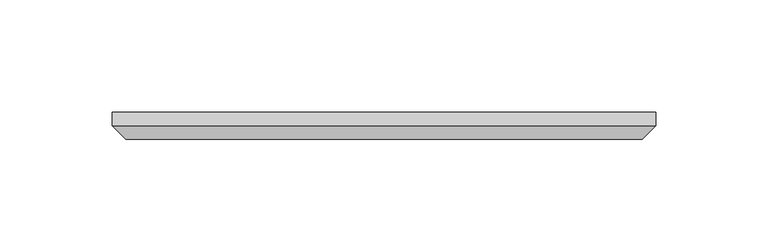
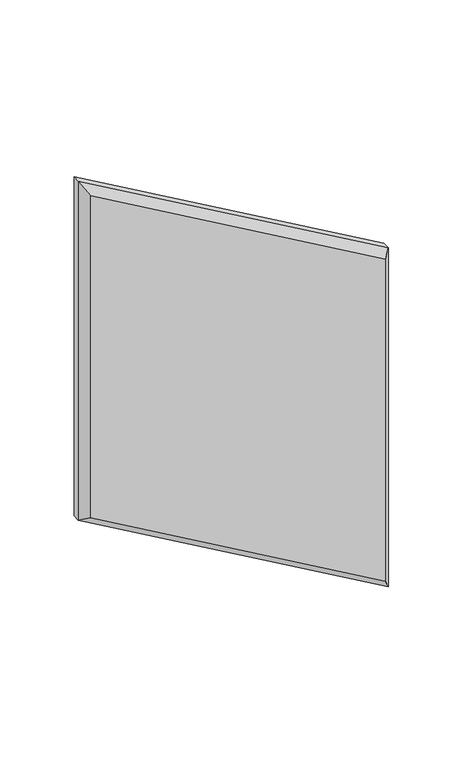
"""IFC4 building model written with IfcOpenShell, lengths in millimetres: proxy geometry, Wall_Cissu 2.3dm."""

from ifc_helpers import new_model, si_unit, origin, place, context, project, spatial, faceted_brep, source, transform, mapped, element, save


def generic_models_d6408ce0(model_context):
    return source(origin(), model_context, "Body", "Brep", [
        faceted_brep([(1360.4764126, -95.7520401, 1463.7211857), (1360.4764126, -95.7520401, 1184.3211857), (1118.5089148, -95.7520401, 1324.0211857), (1118.5089148, -95.7520401, 1603.4211857), (1360.4764126, -101.7520401, 1463.7211857), (1360.4764126, -101.7520401, 1184.3211857), (1118.5089148, -101.7520401, 1324.0211857), (1118.5089148, -101.7520401, 1603.4211857), (1124.5089148, -107.7520401, 1327.4852874), (1354.4764126, -107.7520401, 1194.7134906), (1354.4764126, -107.7520401, 1460.2570841), (1124.5089148, -107.7520401, 1593.0288809)], [[[0, 1, 2, 3]], [[4, 5, 1, 0]], [[5, 6, 2, 1]], [[6, 7, 3, 2]], [[7, 4, 0, 3]], [[8, 9, 10, 11]], [[4, 10, 9, 5]], [[5, 9, 8, 6]], [[6, 8, 11, 7]], [[7, 11, 10, 4]]]),
    ])


if __name__ == "__main__":
    model = new_model("IFC4")
    model_context = context("Model", 3, world=origin())
    ifc_project = project(units=[si_unit("LENGTHUNIT", "METRE", prefix="MILLI")], contexts=[model_context])
    site = spatial("IfcSite", under=ifc_project)
    building = spatial("IfcBuilding", under=site)
    placement = place(None, origin())
    generic_models_shape = generic_models_d6408ce0(model_context)
    element("IfcBuildingElementProxy", 1, Name="Wall_Cissu 2.3dm", ObjectType="Wall_Cissu 2.3dm", at=placement, inside=building, context=model_context, shape_type="MappedRepresentation", body=[
        mapped(generic_models_shape, transform((0.0, 0.0, 0.0), x_axis=(1.0, 0.0, 0.0), y_axis=(0.0, 1.0, 0.0), z_axis=(0.0, 0.0, 1.0))),
    ])
    save(model, "model.ifc")
